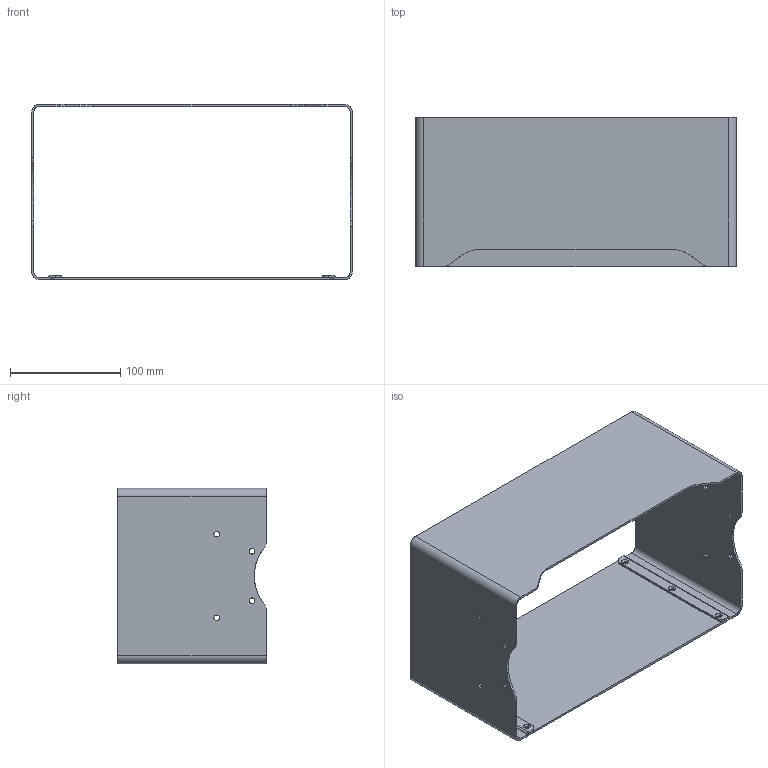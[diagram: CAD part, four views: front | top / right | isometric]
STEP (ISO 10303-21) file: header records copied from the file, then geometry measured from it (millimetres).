
FILE_DESCRIPTION(/* description */ (''),/* implementation_level */ '2;1');
FILE_NAME(/* name */ 'ROXX_NEO mini i_FullGlareShield_3D_step',/* time_stamp */ '2025-07-25T13:49:20+02:00',/* author */ (''),/* organization */ (''),/* preprocessor_version */ 'ST-DEVELOPER v16.5',/* originating_system */ 'Rhino 7.38',/* authorisation */ '');
FILE_SCHEMA (('CONFIG_CONTROL_DESIGN'));
Length unit declared in the file: millimetre
Products named in the file (1): Document
Bounding box: 291 x 135 x 159 mm (x, y, z)
Volume: 234774.1 mm3; surface area: 235318 mm2
Topology: 1 solids, 1 shells, 112 faces, 304 edges, 192 vertices
Faces by surface type: cylinder 70, plane 30, bspline 12
Entity records: 3470 total; most frequent: CARTESIAN_POINT 1418, ORIENTED_EDGE 608, EDGE_CURVE 304, VERTEX_POINT 192, B_SPLINE_CURVE_WITH_KNOTS 164, EDGE_LOOP 140, ADVANCED_FACE 112, FACE_OUTER_BOUND 112
